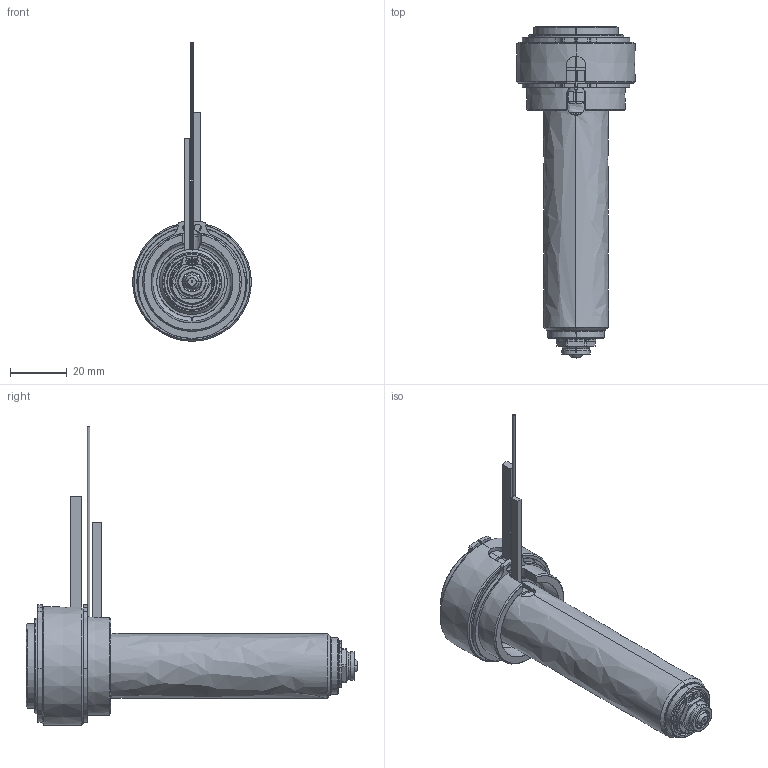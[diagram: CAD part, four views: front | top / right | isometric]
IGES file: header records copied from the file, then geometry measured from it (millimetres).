
Start section: SolidWorks IGES file using analytic representation for surfaces
Global section: file name: C:\Documents and Settings\ws-20\Desktop\TEM\UGER3552-M-A-0 [Øb-0.70  ØC-7.0].IGS; native system: SolidWorks 2012; preprocessor: SolidWorks 2012; author: ws-20; date: 120410.100438; units: millimetre
Bounding box: 42 x 117.4 x 105.6 mm (x, y, z)
Surface area: 37328.7 mm2 (no closed solid volume)
Topology: 0 solids, 0 shells, 194 faces, 3236 edges, 3236 vertices
Faces by surface type: revolution 123, bspline 71
